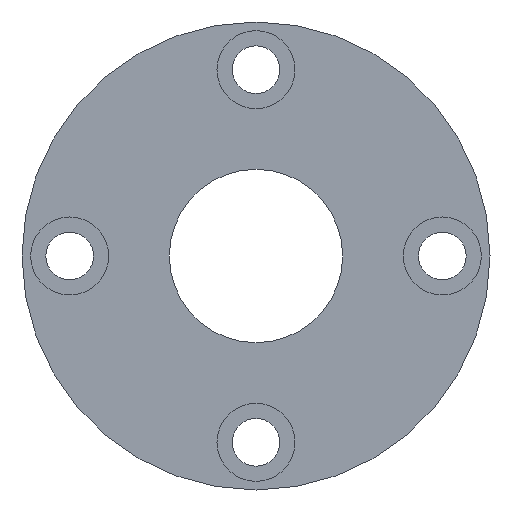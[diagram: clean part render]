
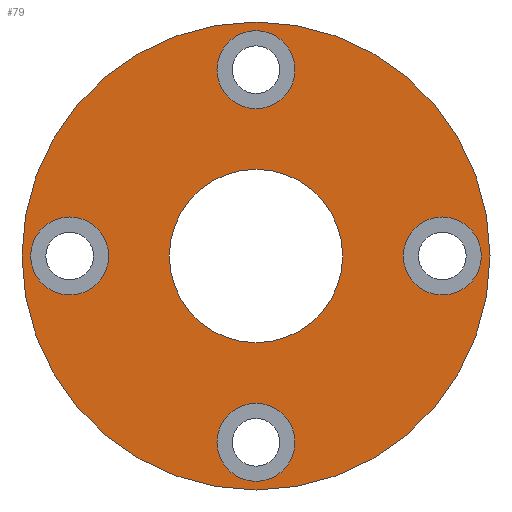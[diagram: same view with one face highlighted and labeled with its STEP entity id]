
A CAD part, left-side view. The second image highlights one B-rep face of the part: STEP entity #79.
In plain terms, the highlighted planar face has unit normal (-1, 0, 0).
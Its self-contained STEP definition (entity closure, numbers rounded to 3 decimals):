
#79 = ADVANCED_FACE( '', ( #110, #111, #112, #113, #114, #115 ), #116, .T. );
#110 = FACE_BOUND( '', #172, .T. );
#111 = FACE_BOUND( '', #173, .T. );
#112 = FACE_BOUND( '', #174, .T. );
#113 = FACE_BOUND( '', #175, .T. );
#114 = FACE_BOUND( '', #176, .T. );
#115 = FACE_OUTER_BOUND( '', #177, .T. );
#116 = PLANE( '', #178 );
#172 = EDGE_LOOP( '', ( #242 ) );
#173 = EDGE_LOOP( '', ( #243 ) );
#174 = EDGE_LOOP( '', ( #244 ) );
#175 = EDGE_LOOP( '', ( #245 ) );
#176 = EDGE_LOOP( '', ( #246 ) );
#177 = EDGE_LOOP( '', ( #247 ) );
#178 = AXIS2_PLACEMENT_3D( '', #248, #249, #250 );
#242 = ORIENTED_EDGE( '', *, *, #324, .T. );
#243 = ORIENTED_EDGE( '', *, *, #325, .T. );
#244 = ORIENTED_EDGE( '', *, *, #326, .T. );
#245 = ORIENTED_EDGE( '', *, *, #327, .T. );
#246 = ORIENTED_EDGE( '', *, *, #328, .T. );
#247 = ORIENTED_EDGE( '', *, *, #329, .F. );
#248 = CARTESIAN_POINT( '', ( 0., 27., 0. ) );
#249 = DIRECTION( '', ( -1., 0., 0. ) );
#250 = DIRECTION( '', ( 0., 0., 1. ) );
#324 = EDGE_CURVE( '', #354, #354, #355, .T. );
#325 = EDGE_CURVE( '', #356, #356, #357, .F. );
#326 = EDGE_CURVE( '', #358, #358, #359, .T. );
#327 = EDGE_CURVE( '', #360, #360, #361, .T. );
#328 = EDGE_CURVE( '', #362, #362, #363, .T. );
#329 = EDGE_CURVE( '', #364, #364, #365, .T. );
#354 = VERTEX_POINT( '', #398 );
#355 = CIRCLE( '', #399, 10. );
#356 = VERTEX_POINT( '', #400 );
#357 = CIRCLE( '', #401, 4.5 );
#358 = VERTEX_POINT( '', #402 );
#359 = CIRCLE( '', #403, 4.5 );
#360 = VERTEX_POINT( '', #404 );
#361 = CIRCLE( '', #405, 4.5 );
#362 = VERTEX_POINT( '', #406 );
#363 = CIRCLE( '', #407, 4.5 );
#364 = VERTEX_POINT( '', #408 );
#365 = CIRCLE( '', #409, 27. );
#398 = CARTESIAN_POINT( '', ( 0., 0., -10. ) );
#399 = AXIS2_PLACEMENT_3D( '', #450, #451, #452 );
#400 = CARTESIAN_POINT( '', ( 0., 21.5, 4.5 ) );
#401 = AXIS2_PLACEMENT_3D( '', #453, #454, #455 );
#402 = CARTESIAN_POINT( '', ( 0., 0., 17. ) );
#403 = AXIS2_PLACEMENT_3D( '', #456, #457, #458 );
#404 = CARTESIAN_POINT( '', ( 0., 0., -26. ) );
#405 = AXIS2_PLACEMENT_3D( '', #459, #460, #461 );
#406 = CARTESIAN_POINT( '', ( 0., -21.5, -4.5 ) );
#407 = AXIS2_PLACEMENT_3D( '', #462, #463, #464 );
#408 = CARTESIAN_POINT( '', ( 0., 0., -27. ) );
#409 = AXIS2_PLACEMENT_3D( '', #465, #466, #467 );
#450 = CARTESIAN_POINT( '', ( 0., 0., 0. ) );
#451 = DIRECTION( '', ( 1., 0., 0. ) );
#452 = DIRECTION( '', ( 0., 0., -1. ) );
#453 = CARTESIAN_POINT( '', ( 0., 21.5, 0. ) );
#454 = DIRECTION( '', ( -1., 0., 0. ) );
#455 = DIRECTION( '', ( 0., 0., 1. ) );
#456 = CARTESIAN_POINT( '', ( 0., 0., 21.5 ) );
#457 = DIRECTION( '', ( 1., 0., 0. ) );
#458 = DIRECTION( '', ( 0., 0., -1. ) );
#459 = CARTESIAN_POINT( '', ( 0., 0., -21.5 ) );
#460 = DIRECTION( '', ( 1., 0., 0. ) );
#461 = DIRECTION( '', ( 0., 0., -1. ) );
#462 = CARTESIAN_POINT( '', ( 0., -21.5, 0. ) );
#463 = DIRECTION( '', ( 1., 0., 0. ) );
#464 = DIRECTION( '', ( 0., 0., -1. ) );
#465 = CARTESIAN_POINT( '', ( 0., 0., 0. ) );
#466 = DIRECTION( '', ( 1., 0., 0. ) );
#467 = DIRECTION( '', ( 0., 0., -1. ) );
